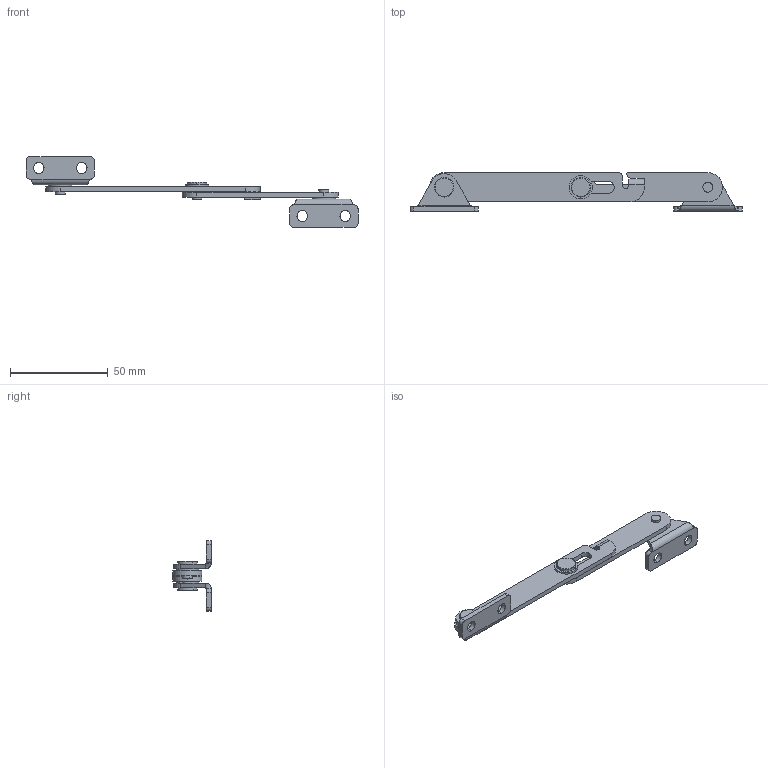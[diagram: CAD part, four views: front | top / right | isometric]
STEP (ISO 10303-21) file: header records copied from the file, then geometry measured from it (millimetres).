
FILE_DESCRIPTION (( 'STEP AP203' ), '1' );
FILE_NAME ('3SJ.TX91-3-Y.0001.STEP', '2020-03-17T05:07:30', ( 'China' ), ( 'User' ), 'SwSTEP 2.0', 'SolidWorks 2018', '' );
FILE_SCHEMA (( 'CONFIG_CONTROL_DESIGN' ));
Length unit declared in the file: millimetre
Products named in the file (6): TX91-3啊裝; TX91-3盓殤; TX91-3穩隊; SUS304-¡é6x12x1 GB.T 95-2002 3390900042; TX91-3-Y傅裝; 3SJ.TX91-3-Y.0001
Assembly tree (10 placements, depth 2):
  3SJ.TX91-3-Y.0001
    TX91-3啊裝
    TX91-3盓殤  x2
    TX91-3穩隊  x3
    SUS304-¡é6x12x1 GB.T 95-2002 3390900042  x3
    TX91-3-Y傅裝
Bounding box: 170 x 19.8 x 36.2 mm (x, y, z)
Volume: 10548.3 mm3; surface area: 11394.1 mm2
Topology: 10 solids, 10 shells, 155 faces, 357 edges, 228 vertices
Faces by surface type: cylinder 81, plane 64, cone 6, bspline 4
Entity records: 3568 total; most frequent: CARTESIAN_POINT 541, DIRECTION 512, ORIENTED_EDGE 444, EDGE_CURVE 222, AXIS2_PLACEMENT_3D 195, VERTEX_POINT 142, LINE 122, VECTOR 122
